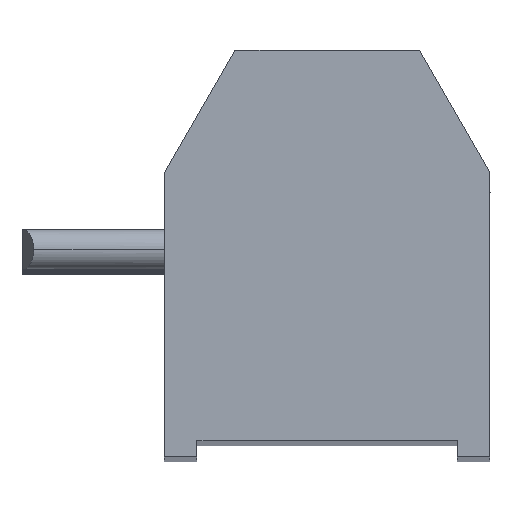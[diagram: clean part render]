
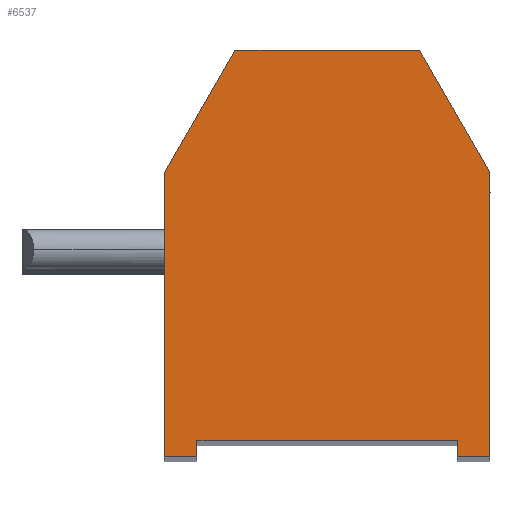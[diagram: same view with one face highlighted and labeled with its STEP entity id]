
A CAD part, top view. The second image highlights one B-rep face of the part: STEP entity #6537.
In plain terms, the highlighted planar face has unit normal (0, 0, 1).
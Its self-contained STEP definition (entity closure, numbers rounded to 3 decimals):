
#4272 = EDGE_CURVE ( 'NONE', #4286, #36383, #15073, .T. ) ;
#4285 = EDGE_CURVE ( 'NONE', #4286, #4287, #15035, .T. ) ;
#4286 = VERTEX_POINT ( 'NONE', #15104 ) ;
#4287 = VERTEX_POINT ( 'NONE', #15103 ) ;
#4365 = EDGE_CURVE ( 'NONE', #36368, #4367, #15125, .T. ) ;
#4367 = VERTEX_POINT ( 'NONE', #15120 ) ;
#4417 = EDGE_CURVE ( 'NONE', #4367, #4419, #15185, .T. ) ;
#4419 = VERTEX_POINT ( 'NONE', #15175 ) ;
#4480 = EDGE_CURVE ( 'NONE', #4419, #4482, #15266, .T. ) ;
#4482 = VERTEX_POINT ( 'NONE', #15319 ) ;
#6457 = ORIENTED_EDGE ( 'NONE', *, *, #6458, .T. ) ;
#6458 = EDGE_CURVE ( 'NONE', #6478, #6459, #18280, .T. ) ;
#6459 = VERTEX_POINT ( 'NONE', #18276 ) ;
#6460 = ORIENTED_EDGE ( 'NONE', *, *, #6461, .T. ) ;
#6461 = EDGE_CURVE ( 'NONE', #6459, #4482, #18275, .T. ) ;
#6477 = EDGE_CURVE ( 'NONE', #6478, #4287, #18316, .T. ) ;
#6478 = VERTEX_POINT ( 'NONE', #18312 ) ;
#6517 = ORIENTED_EDGE ( 'NONE', *, *, #4480, .F. ) ;
#6518 = ORIENTED_EDGE ( 'NONE', *, *, #4417, .F. ) ;
#6519 = ORIENTED_EDGE ( 'NONE', *, *, #4365, .F. ) ;
#6520 = ORIENTED_EDGE ( 'NONE', *, *, #36367, .T. ) ;
#6522 = ORIENTED_EDGE ( 'NONE', *, *, #36381, .T. ) ;
#6523 = ORIENTED_EDGE ( 'NONE', *, *, #4272, .F. ) ;
#6524 = ORIENTED_EDGE ( 'NONE', *, *, #4285, .T. ) ;
#6537 = ADVANCED_FACE ( 'NONE', ( #18380 ), #18372, .F. ) ;
#6538 = EDGE_LOOP ( 'NONE', ( #6539, #6457, #6460, #6517, #6518, #6519, #6520, #6522, #6523, #6524 ) ) ;
#6539 = ORIENTED_EDGE ( 'NONE', *, *, #6477, .F. ) ;
#15035 = LINE ( 'NONE', #15107, #15106 ) ;
#15070 = DIRECTION ( 'NONE',  ( -1., 0., 0. ) ) ;
#15071 = VECTOR ( 'NONE', #15070, 1000. ) ;
#15072 = CARTESIAN_POINT ( 'NONE',  ( 0., 0.4, 0. ) ) ;
#15073 = LINE ( 'NONE', #15072, #15071 ) ;
#15103 = CARTESIAN_POINT ( 'NONE',  ( 3.2, 0., 0. ) ) ;
#15104 = CARTESIAN_POINT ( 'NONE',  ( 3.2, 0.4, 0. ) ) ;
#15105 = DIRECTION ( 'NONE',  ( 0., -1., 0. ) ) ;
#15106 = VECTOR ( 'NONE', #15105, 1000. ) ;
#15107 = CARTESIAN_POINT ( 'NONE',  ( 3.2, 0.2, 0. ) ) ;
#15120 = CARTESIAN_POINT ( 'NONE',  ( -4., 7., 0. ) ) ;
#15122 = DIRECTION ( 'NONE',  ( 0., 1., 0. ) ) ;
#15123 = VECTOR ( 'NONE', #15122, 1000. ) ;
#15124 = CARTESIAN_POINT ( 'NONE',  ( -4., 0., 0. ) ) ;
#15125 = LINE ( 'NONE', #15124, #15123 ) ;
#15175 = CARTESIAN_POINT ( 'NONE',  ( -2.268, 10., 0. ) ) ;
#15182 = DIRECTION ( 'NONE',  ( 0.5, 0.866, 0. ) ) ;
#15183 = VECTOR ( 'NONE', #15182, 1000. ) ;
#15184 = CARTESIAN_POINT ( 'NONE',  ( -4., 7., 0. ) ) ;
#15185 = LINE ( 'NONE', #15184, #15183 ) ;
#15263 = DIRECTION ( 'NONE',  ( 1., 0., 0. ) ) ;
#15264 = VECTOR ( 'NONE', #15263, 1000. ) ;
#15265 = CARTESIAN_POINT ( 'NONE',  ( 0., 10., 0. ) ) ;
#15266 = LINE ( 'NONE', #15265, #15264 ) ;
#15319 = CARTESIAN_POINT ( 'NONE',  ( 2.268, 10., 0. ) ) ;
#18272 = DIRECTION ( 'NONE',  ( -0.5, 0.866, 0. ) ) ;
#18273 = VECTOR ( 'NONE', #18272, 1000. ) ;
#18274 = CARTESIAN_POINT ( 'NONE',  ( 3.134, 8.5, 0. ) ) ;
#18275 = LINE ( 'NONE', #18274, #18273 ) ;
#18276 = CARTESIAN_POINT ( 'NONE',  ( 4., 7., 0. ) ) ;
#18277 = DIRECTION ( 'NONE',  ( 0., 1., 0. ) ) ;
#18278 = VECTOR ( 'NONE', #18277, 1000. ) ;
#18279 = CARTESIAN_POINT ( 'NONE',  ( 4., 3.5, 0. ) ) ;
#18280 = LINE ( 'NONE', #18279, #18278 ) ;
#18312 = CARTESIAN_POINT ( 'NONE',  ( 4., 0., 0. ) ) ;
#18313 = DIRECTION ( 'NONE',  ( -1., 0., 0. ) ) ;
#18314 = VECTOR ( 'NONE', #18313, 1000. ) ;
#18315 = CARTESIAN_POINT ( 'NONE',  ( 0., 0., 0. ) ) ;
#18316 = LINE ( 'NONE', #18315, #18314 ) ;
#18368 = DIRECTION ( 'NONE',  ( -1., 0., 0. ) ) ;
#18369 = DIRECTION ( 'NONE',  ( 0., 0., -1. ) ) ;
#18370 = CARTESIAN_POINT ( 'NONE',  ( 4., 0., 0. ) ) ;
#18371 = AXIS2_PLACEMENT_3D ( 'NONE', #18370, #18369, #18368 ) ;
#18372 = PLANE ( 'NONE',  #18371 ) ;
#18380 = FACE_OUTER_BOUND ( 'NONE', #6538, .T. ) ;
#29453 = VECTOR ( 'NONE', #29517, 1000. ) ;
#29454 = CARTESIAN_POINT ( 'NONE',  ( -3.6, 0., 0. ) ) ;
#29460 = LINE ( 'NONE', #29454, #29453 ) ;
#29495 = CARTESIAN_POINT ( 'NONE',  ( -3.2, 0.4, 0. ) ) ;
#29496 = CARTESIAN_POINT ( 'NONE',  ( -3.2, 0., 0. ) ) ;
#29497 = DIRECTION ( 'NONE',  ( 0., 1., 0. ) ) ;
#29498 = VECTOR ( 'NONE', #29497, 1000. ) ;
#29499 = CARTESIAN_POINT ( 'NONE',  ( -3.2, 0.2, 0. ) ) ;
#29500 = LINE ( 'NONE', #29499, #29498 ) ;
#29516 = CARTESIAN_POINT ( 'NONE',  ( -4., 0., 0. ) ) ;
#29517 = DIRECTION ( 'NONE',  ( 1., 0., 0. ) ) ;
#36367 = EDGE_CURVE ( 'NONE', #36368, #36382, #29460, .T. ) ;
#36368 = VERTEX_POINT ( 'NONE', #29516 ) ;
#36381 = EDGE_CURVE ( 'NONE', #36382, #36383, #29500, .T. ) ;
#36382 = VERTEX_POINT ( 'NONE', #29496 ) ;
#36383 = VERTEX_POINT ( 'NONE', #29495 ) ;
